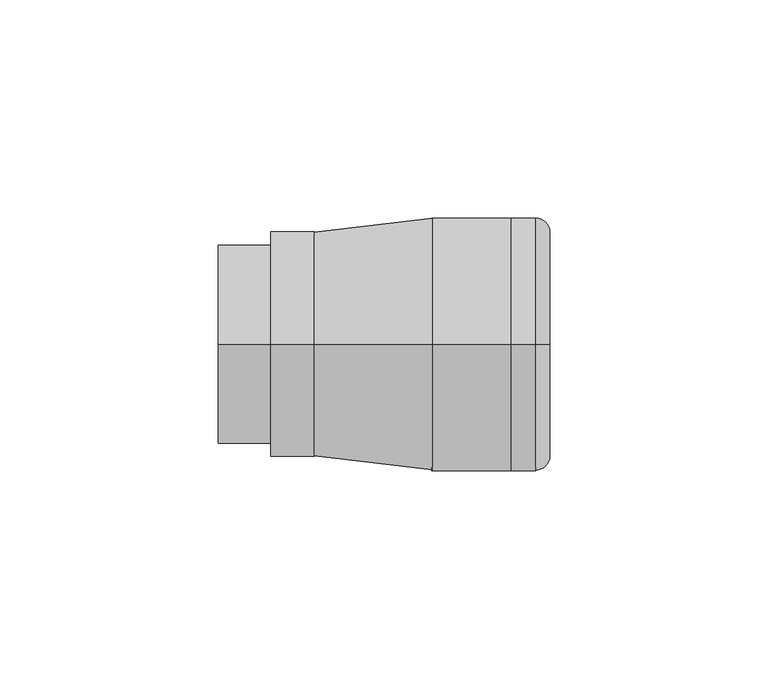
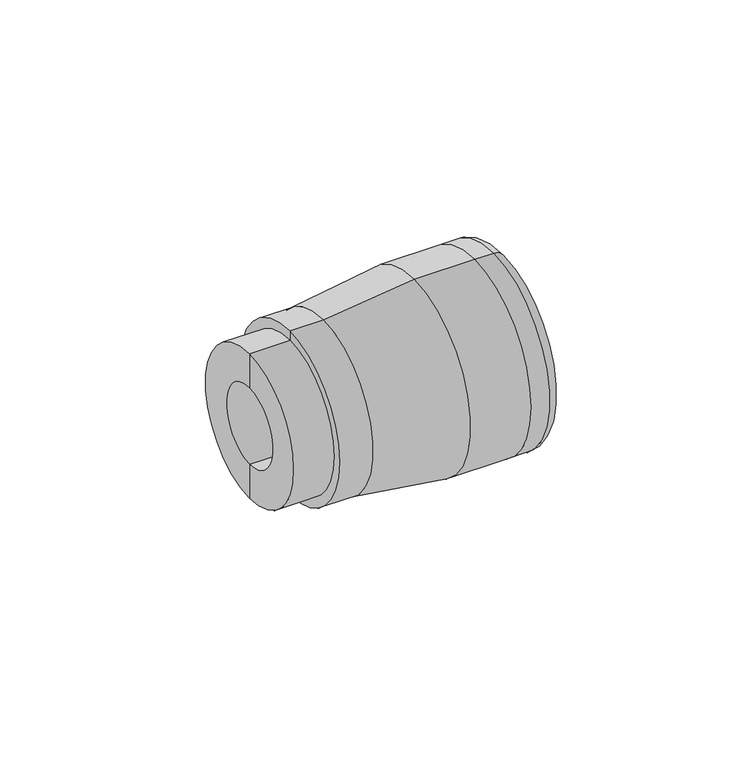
"""IFC4 building model written with IfcOpenShell, lengths in millimetres: pipe fitting geometry, Plumbing_Pipe-Fittings_Plasson_Female-Adaptor_1003G : Plumbing_Pipe-Fittings_Plasson_Female-Adaptor_1003G."""

from ifc_helpers import new_model, si_unit, point, frame, origin, place, context, project, spatial, polyline, circle_curve, ellipse_curve, trimmed, source, transform, mapped, element, save
from ifc_brep_helpers import plane_surface, cylinder_surface, revolved_surface, advanced_brep


def pipe_fitting_0adbe229(model_context):
    return source(origin(), model_context, "Body", "AdvancedBrep", [
        advanced_brep(
        [(0.8817136, 0.0, -22.75), (0.8817136, 0.0, 22.75), (0.8817136, 0.0, 12.05), (0.8817136, 0.0, -12.05), (-11.1182864, 0.0, -22.75), (-11.1182864, 0.0, 22.75), (-11.1182864, 0.0, -12.05), (-11.1182864, 0.0, 12.05)],
        [
            (0, 1, circle_curve(frame((0.8817136, 0.0, 0.0), z_axis=(1.0, 0.0, 0.0), x_axis=(0.0, 0.0, 1.0)), 22.75)),
            (1, 2),
            (2, 3, circle_curve(frame((0.8817136, 0.0, 0.0), z_axis=(-1.0, 0.0, 0.0), x_axis=(0.0, 0.0, 1.0)), 12.05)),
            (3, 0),
            (1, 0, circle_curve(frame((0.8817136, 0.0, 0.0), z_axis=(1.0, 0.0, 0.0), x_axis=(0.0, 0.0, 1.0)), 22.75)),
            (3, 2, circle_curve(frame((0.8817136, 0.0, 0.0), z_axis=(-1.0, 0.0, 0.0), x_axis=(0.0, 0.0, 1.0)), 12.05)),
            (4, 5, circle_curve(frame((-11.1182864, 0.0, 0.0), z_axis=(1.0, 0.0, 0.0), x_axis=(0.0, 0.0, 1.0)), 22.75)),
            (5, 1),
            (0, 4),
            (5, 4, circle_curve(frame((-11.1182864, 0.0, 0.0), z_axis=(1.0, 0.0, 0.0), x_axis=(0.0, 0.0, 1.0)), 22.75)),
            (6, 7, circle_curve(frame((-11.1182864, 0.0, 0.0), z_axis=(1.0, 0.0, 0.0), x_axis=(0.0, 0.0, 1.0)), 12.05)),
            (7, 5),
            (4, 6),
            (7, 6, circle_curve(frame((-11.1182864, 0.0, 0.0), z_axis=(1.0, 0.0, 0.0), x_axis=(0.0, 0.0, 1.0)), 12.05)),
            (2, 7),
            (6, 3),
        ],
        [
            plane_surface(frame((0.8817136, 0.0, 0.0), z_axis=(1.0, 0.0, 0.0), x_axis=(0.0, 0.0, 1.0))),
            cylinder_surface(frame((-4.784953, 0.0, 0.0), z_axis=(-1.0, 0.0, 0.0), x_axis=(0.0, 0.0, 1.0)), 22.75),
            plane_surface(frame((-11.1182864, 0.0, 0.0), z_axis=(-1.0, 0.0, 0.0), x_axis=(0.0, 0.0, 1.0))),
            revolved_surface(polyline([(-11.1182864, 0.0, 12.05), (0.8817136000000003, 0.0, 12.05)]), (-4.784953, 0.0, 0.0), (-1.0, 0.0, 0.0)),
        ],
        [
            (0, [[1, 2, 3, 4]]),
            (0, [[5, -4, 6, -2]]),
            (1, [[7, 8, -1, 9]]),
            (1, [[10, -9, -5, -8]]),
            (2, [[11, 12, -7, 13]]),
            (2, [[14, -13, -10, -12]]),
            (3, [[-3, 15, -11, 16]]),
            (3, [[-6, -16, -14, -15]]),
        ],
    ),
        advanced_brep(
        [(10.8817136, 0.0, -25.75), (10.8817136, 0.0, 25.75), (37.8817136, 0.0, 29.0), (37.8817136, 0.0, -29.0), (0.8817136, 0.0, -25.75), (0.8817136, 0.0, 25.75), (0.8817136, 0.0, -13.7257346), (0.8817136, 0.0, 13.7257346), (10.8817136, 0.0, -13.7257346), (10.8817136, 0.0, 13.7257346), (10.8817136, 0.0, -16.0), (10.8817136, 0.0, 16.0), (55.8817136, 0.0, -16.0), (55.8817136, 0.0, 16.0), (55.8817136, 0.0, -29.0), (55.8817136, 0.0, 29.0)],
        [
            (0, 1, circle_curve(frame((10.8817136, 0.0, 0.0), z_axis=(1.0, 0.0, 0.0), x_axis=(0.0, 0.0, 1.0)), 25.75)),
            (1, 2, circle_curve(frame((7.5771804, 0.0, 166.9818917), z_axis=(0.0, -1.0, 0.0), x_axis=(1.0, 0.0, 0.0)), 141.270546)),
            (2, 3, circle_curve(frame((37.8817136, 0.0, 0.0), z_axis=(-1.0, 0.0, 0.0), x_axis=(0.0, 0.0, 1.0)), 29.0)),
            (3, 0, circle_curve(frame((7.5771804, 0.0, -166.9818917), z_axis=(0.0, -1.0, 0.0), x_axis=(1.0, 0.0, 0.0)), 141.270546)),
            (1, 0, circle_curve(frame((10.8817136, 0.0, 0.0), z_axis=(1.0, 0.0, 0.0), x_axis=(0.0, 0.0, 1.0)), 25.75)),
            (3, 2, circle_curve(frame((37.8817136, 0.0, 0.0), z_axis=(-1.0, 0.0, 0.0), x_axis=(0.0, 0.0, 1.0)), 29.0)),
            (4, 5, circle_curve(frame((0.8817136, 0.0, 0.0), z_axis=(1.0, 0.0, 0.0), x_axis=(0.0, 0.0, 1.0)), 25.75)),
            (5, 1),
            (0, 4),
            (5, 4, circle_curve(frame((0.8817136, 0.0, 0.0), z_axis=(1.0, 0.0, 0.0), x_axis=(0.0, 0.0, 1.0)), 25.75)),
            (6, 7, circle_curve(frame((0.8817136, 0.0, 0.0), z_axis=(1.0, 0.0, 0.0), x_axis=(0.0, 0.0, 1.0)), 13.7257346)),
            (7, 5),
            (4, 6),
            (7, 6, circle_curve(frame((0.8817136, 0.0, 0.0), z_axis=(1.0, 0.0, 0.0), x_axis=(0.0, 0.0, 1.0)), 13.7257346)),
            (8, 9, circle_curve(frame((10.8817136, 0.0, 0.0), z_axis=(1.0, 0.0, 0.0), x_axis=(0.0, 0.0, 1.0)), 13.7257346)),
            (9, 7),
            (6, 8),
            (9, 8, circle_curve(frame((10.8817136, 0.0, 0.0), z_axis=(1.0, 0.0, 0.0), x_axis=(0.0, 0.0, 1.0)), 13.7257346)),
            (10, 11, circle_curve(frame((10.8817136, 0.0, 0.0), z_axis=(1.0, 0.0, 0.0), x_axis=(0.0, 0.0, 1.0)), 16.0)),
            (11, 9),
            (8, 10),
            (11, 10, circle_curve(frame((10.8817136, 0.0, 0.0), z_axis=(1.0, 0.0, 0.0), x_axis=(0.0, 0.0, 1.0)), 16.0)),
            (12, 13, circle_curve(frame((55.8817136, 0.0, 0.0), z_axis=(1.0, 0.0, 0.0), x_axis=(0.0, 0.0, 1.0)), 16.0)),
            (13, 11),
            (10, 12),
            (13, 12, circle_curve(frame((55.8817136, 0.0, 0.0), z_axis=(1.0, 0.0, 0.0), x_axis=(0.0, 0.0, 1.0)), 16.0)),
            (14, 15, circle_curve(frame((55.8817136, 0.0, 0.0), z_axis=(1.0, 0.0, 0.0), x_axis=(0.0, 0.0, 1.0)), 29.0)),
            (15, 13),
            (12, 14),
            (15, 14, circle_curve(frame((55.8817136, 0.0, 0.0), z_axis=(1.0, 0.0, 0.0), x_axis=(0.0, 0.0, 1.0)), 29.0)),
            (2, 15),
            (14, 3),
        ],
        [
            revolved_surface(trimmed(ellipse_curve(frame((7.5771804, 0.0, 166.9818917), z_axis=(0.0, 1.0, 0.0), x_axis=(1.0, 0.0, 0.0)), 141.270546, 141.270546), [point((37.8817136, 0.0, 29.0))], [point((10.8817136, 0.0, 25.75))], True, "CARTESIAN"), (37.8817136, 0.0, 0.0), (-1.0, 0.0, 0.0)),
            cylinder_surface(frame((37.8817136, 0.0, 0.0), z_axis=(-1.0, 0.0, 0.0), x_axis=(0.0, 0.0, 1.0)), 25.75),
            plane_surface(frame((0.8817136, 0.0, 0.0), z_axis=(-1.0, 0.0, 0.0), x_axis=(0.0, 0.0, 1.0))),
            revolved_surface(polyline([(0.8817135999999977, 0.0, 13.7257346), (10.881713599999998, 0.0, 13.7257346)]), (37.8817136, 0.0, 0.0), (-1.0, 0.0, 0.0)),
            plane_surface(frame((10.8817136, 0.0, 0.0), z_axis=(1.0, 0.0, 0.0), x_axis=(0.0, 0.0, 1.0))),
            revolved_surface(polyline([(10.881713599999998, 0.0, 16.0), (55.8817136, 0.0, 16.0)]), (37.8817136, 0.0, 0.0), (-1.0, 0.0, 0.0)),
            plane_surface(frame((55.8817136, 0.0, 0.0), z_axis=(1.0, 0.0, 0.0), x_axis=(0.0, 0.0, 1.0))),
            cylinder_surface(frame((37.8817136, 0.0, 0.0), z_axis=(-1.0, 0.0, 0.0), x_axis=(0.0, 0.0, 1.0)), 29.0),
        ],
        [
            (0, [[1, 2, 3, 4]]),
            (0, [[5, -4, 6, -2]]),
            (1, [[7, 8, -1, 9]]),
            (1, [[10, -9, -5, -8]]),
            (2, [[11, 12, -7, 13]]),
            (2, [[14, -13, -10, -12]]),
            (3, [[15, 16, -11, 17]]),
            (3, [[18, -17, -14, -16]]),
            (4, [[19, 20, -15, 21]]),
            (4, [[22, -21, -18, -20]]),
            (5, [[23, 24, -19, 25]]),
            (5, [[26, -25, -22, -24]]),
            (6, [[27, 28, -23, 29]]),
            (6, [[30, -29, -26, -28]]),
            (7, [[-3, 31, -27, 32]]),
            (7, [[-6, -32, -30, -31]]),
        ],
    ),
        advanced_brep(
        [(64.8817136, 0.0, -16.0), (64.8817136, 0.0, 16.0), (55.8817136, 0.0, 16.0), (55.8817136, 0.0, -16.0), (64.8817136, 0.0, -25.75), (64.8817136, 0.0, 25.75), (61.6317136, 0.0, -29.0), (61.6317136, 0.0, 29.0), (55.8817136, 0.0, -29.0), (55.8817136, 0.0, 29.0)],
        [
            (0, 1, circle_curve(frame((64.8817136, 0.0, 0.0), z_axis=(1.0, 0.0, 0.0), x_axis=(0.0, 0.0, 1.0)), 16.0)),
            (1, 2),
            (2, 3, circle_curve(frame((55.8817136, 0.0, 0.0), z_axis=(-1.0, 0.0, 0.0), x_axis=(0.0, 0.0, 1.0)), 16.0)),
            (3, 0),
            (1, 0, circle_curve(frame((64.8817136, 0.0, 0.0), z_axis=(1.0, 0.0, 0.0), x_axis=(0.0, 0.0, 1.0)), 16.0)),
            (3, 2, circle_curve(frame((55.8817136, 0.0, 0.0), z_axis=(-1.0, 0.0, 0.0), x_axis=(0.0, 0.0, 1.0)), 16.0)),
            (4, 5, circle_curve(frame((64.8817136, 0.0, 0.0), z_axis=(1.0, 0.0, 0.0), x_axis=(0.0, 0.0, 1.0)), 25.75)),
            (5, 1),
            (0, 4),
            (5, 4, circle_curve(frame((64.8817136, 0.0, 0.0), z_axis=(1.0, 0.0, 0.0), x_axis=(0.0, 0.0, 1.0)), 25.75)),
            (6, 7, circle_curve(frame((61.6317136, 0.0, 0.0), z_axis=(1.0, 0.0, 0.0), x_axis=(0.0, 0.0, 1.0)), 29.0)),
            (7, 5, circle_curve(frame((61.6317136, 0.0, 25.75), z_axis=(0.0, 1.0, 0.0), x_axis=(1.0, 0.0, 0.0)), 3.25)),
            (4, 6, circle_curve(frame((61.6317136, 0.0, -25.75), z_axis=(0.0, 1.0, 0.0), x_axis=(1.0, 0.0, 0.0)), 3.25)),
            (7, 6, circle_curve(frame((61.6317136, 0.0, 0.0), z_axis=(1.0, 0.0, 0.0), x_axis=(0.0, 0.0, 1.0)), 29.0)),
            (8, 9, circle_curve(frame((55.8817136, 0.0, 0.0), z_axis=(1.0, 0.0, 0.0), x_axis=(0.0, 0.0, 1.0)), 29.0)),
            (9, 7),
            (6, 8),
            (9, 8, circle_curve(frame((55.8817136, 0.0, 0.0), z_axis=(1.0, 0.0, 0.0), x_axis=(0.0, 0.0, 1.0)), 29.0)),
            (2, 9),
            (8, 3),
        ],
        [
            revolved_surface(polyline([(55.8817136, 0.0, 16.0), (64.8817136, 0.0, 16.0)]), (42.3288773, 0.0, 0.0), (-1.0, 0.0, 0.0)),
            plane_surface(frame((64.8817136, 0.0, 0.0), z_axis=(1.0, 0.0, 0.0), x_axis=(0.0, 0.0, 1.0))),
            revolved_surface(trimmed(ellipse_curve(frame((61.6317136, 0.0, 25.75), z_axis=(0.0, -1.0, 0.0), x_axis=(1.0, 0.0, 0.0)), 3.25, 3.25), [point((64.8817136, 0.0, 25.75))], [point((61.6317136, 0.0, 29.0))], True, "CARTESIAN"), (42.3288773, 0.0, 0.0), (-1.0, 0.0, 0.0)),
            cylinder_surface(frame((42.3288773, 0.0, 0.0), z_axis=(-1.0, 0.0, 0.0), x_axis=(0.0, 0.0, 1.0)), 29.0),
            plane_surface(frame((55.8817136, 0.0, 0.0), z_axis=(-1.0, 0.0, 0.0), x_axis=(0.0, 0.0, 1.0))),
        ],
        [
            (0, [[1, 2, 3, 4]]),
            (0, [[5, -4, 6, -2]]),
            (1, [[7, 8, -1, 9]]),
            (1, [[10, -9, -5, -8]]),
            (2, [[11, 12, -7, 13]]),
            (2, [[14, -13, -10, -12]]),
            (3, [[15, 16, -11, 17]]),
            (3, [[18, -17, -14, -16]]),
            (4, [[-3, 19, -15, 20]]),
            (4, [[-6, -20, -18, -19]]),
        ],
    ),
    ])


if __name__ == "__main__":
    model = new_model("IFC4")
    model_context = context("Model", 3, world=origin())
    ifc_project = project(units=[si_unit("LENGTHUNIT", "METRE", prefix="MILLI")], contexts=[model_context])
    site = spatial("IfcSite", under=ifc_project)
    building = spatial("IfcBuilding", under=site)
    placement = place(None, origin())
    pipe_fitting_shape = pipe_fitting_0adbe229(model_context)
    element("IfcPipeFitting", 1, ObjectType="Plumbing_Pipe-Fittings_Plasson_Female-Adaptor_1003G : Plumbing_Pipe-Fittings_Plasson_Female-Adaptor_1003G", at=placement, inside=building, context=model_context, shape_type="MappedRepresentation", body=[
        mapped(pipe_fitting_shape, transform((0.0, 0.0, 0.0), x_axis=(1.0, 0.0, 0.0), y_axis=(0.0, 1.0, 0.0), z_axis=(0.0, 0.0, 1.0))),
    ])
    save(model, "model.ifc")
